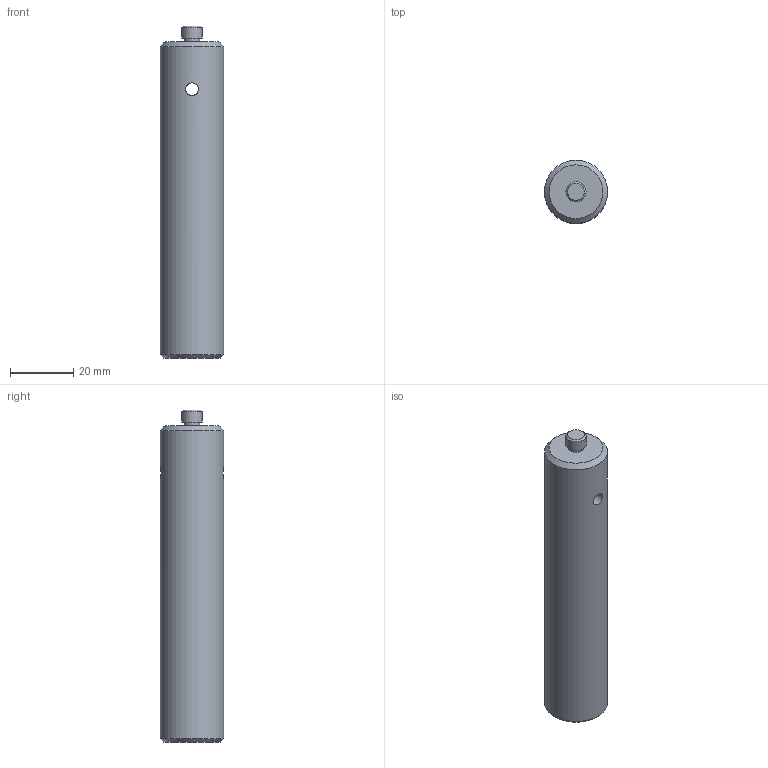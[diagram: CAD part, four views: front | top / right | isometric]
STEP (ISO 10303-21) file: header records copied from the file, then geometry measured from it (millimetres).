
FILE_DESCRIPTION((''),'2;1');
FILE_NAME('Z:\3DDATA\2_OpticalHard\01_国内製品\3_Bases\ROU\ROU-20-100\ROU-20-100.stp','2010-07-23T09:19:13',('okegawa'),(''),'Autodesk Inventor 2008','Autodesk Inventor 2008','');
FILE_SCHEMA(('AUTOMOTIVE_DESIGN { 1 0 10303 214 1 1 1 1 }'));
Length unit declared in the file: millimetre
Products named in the file (1): ROU2010-M03-10001-S01
Bounding box: 20 x 20 x 105 mm (x, y, z)
Volume: 31209.9 mm3; surface area: 7151.4 mm2
Topology: 1 solids, 1 shells, 11 faces, 20 edges, 13 vertices
Faces by surface type: cylinder 4, plane 4, cone 3
Full cylindrical faces by diameter (mm): 4 x1, 5 x1, 6.35 x1, 20 x1
Entity records: 375 total; most frequent: CARTESIAN_POINT 156, DIRECTION 42, ORIENTED_EDGE 24, EDGE_LOOP 22, AXIS2_PLACEMENT_3D 21, VERTEX_POINT 12, EDGE_CURVE 12, FACE_OUTER_BOUND 11
